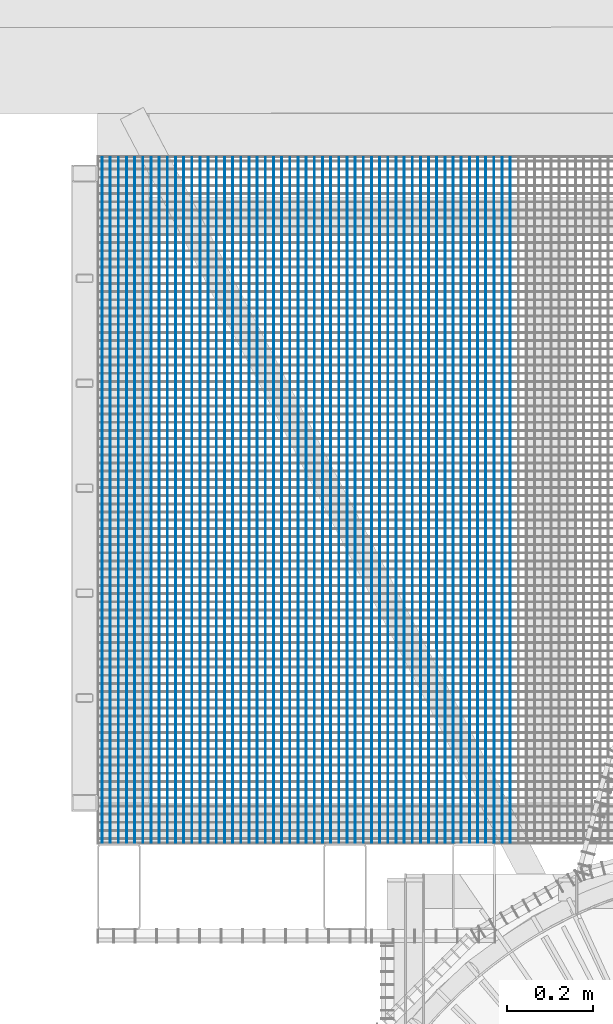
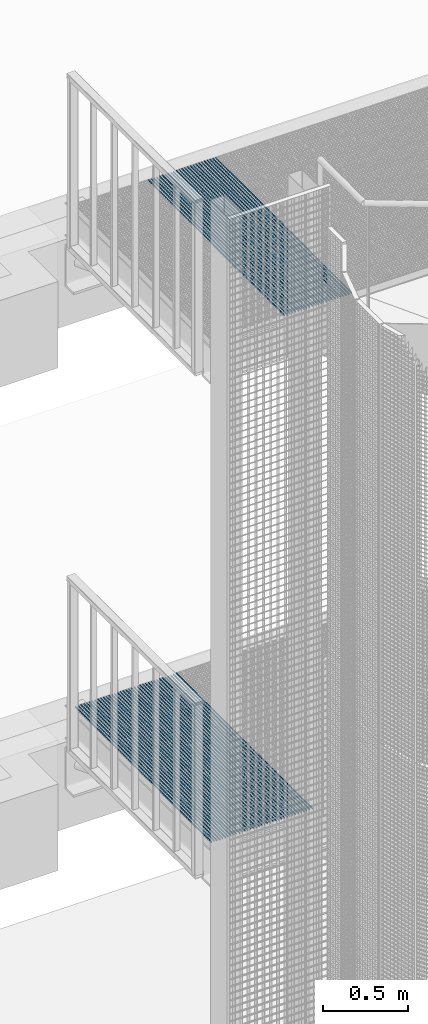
# One storey, part 78 of 1148: 62 beams, 2 elements without a shape of their own.
"""IFC2X3 building model written with IfcOpenShell, lengths in millimetres."""

from ifc_helpers import new_model, si_unit, frame, origin_with_axes, origin_2d_with_axis, place, context, subcontext, project, spatial, rectangle, extrude, material, type_object, element, aggregate, save


model = new_model("IFC2X3")

# Units and contexts
model_context = context("Model", 3, precision=1e-05, world=origin_with_axes())
body_context = subcontext(model_context, "Body", "Model", "MODEL_VIEW")
ifc_project = project(units=[si_unit("LENGTHUNIT", "METRE", prefix="MILLI"), si_unit("AREAUNIT", "SQUARE_METRE"), si_unit("VOLUMEUNIT", "CUBIC_METRE"), si_unit("MASSUNIT", "GRAM", prefix="KILO"), si_unit("TIMEUNIT", "SECOND"), si_unit("PLANEANGLEUNIT", "RADIAN"), si_unit("SOLIDANGLEUNIT", "STERADIAN"), si_unit("THERMODYNAMICTEMPERATUREUNIT", "DEGREE_CELSIUS"), si_unit("LUMINOUSINTENSITYUNIT", "LUMEN")], contexts=[model_context])

# Site, building, storey
site_placement = place(None, origin_with_axes())
site = spatial("IfcSite", under=ifc_project, at=site_placement, Name="Undefined", CompositionType="ELEMENT")
building_placement = place(site_placement, origin_with_axes())
building = spatial("IfcBuilding", under=site, at=building_placement, Name="Undefined", CompositionType="ELEMENT")
storey_placement = place(building_placement, origin_with_axes())
storey = spatial("IfcBuildingStorey", under=building, at=storey_placement, Name="Undefined", CompositionType="ELEMENT", Elevation=0.0)

# Assembly, beams
assembly_1_placement = place(storey_placement, origin_with_axes())
assembly_1 = element("IfcElementAssembly", 1, at=assembly_1_placement, inside=storey, Name="BORDURE", AssemblyPlace="NOTDEFINED", PredefinedType="NOTDEFINED")
ifc_material = material(Name="STEEL/S235JR")
beam_type = type_object("IfcBeamType", Name="PL2*10", PredefinedType="NOTDEFINED")
beam_1_placement = place(assembly_1_placement, frame((-1044.9245752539, 1101.99717552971, 17285.0), z_axis=(0.0, 0.0, 1.0), x_axis=(-4.50599999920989e-06, 0.999999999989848, 0.0)))
beam_1 = element("IfcBeam", 2, at=beam_1_placement, type_object=beam_type, material=ifc_material, Name="ENTRETOISE", context=body_context, shape_type="SweptSolid", body=[
    extrude(rectangle(XDim=2.0, YDim=10.0, at=origin_2d_with_axis()), frame((1596.0000000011, -1.35186458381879e-18, -7.27595761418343e-12), z_axis=(-1.0, 0.0, 0.0), x_axis=(0.0, -1.0, 0.0)), (0.0, 0.0, 1.0), 1596.0),
])
beam_2_placement = place(assembly_1_placement, frame((-1025.92457525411, 1101.99726904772, 17285.0), z_axis=(0.0, 0.0, 1.0), x_axis=(-4.50599999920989e-06, 0.999999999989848, 0.0)))
beam_2 = element("IfcBeam", 3, at=beam_2_placement, type_object=beam_type, material=ifc_material, Name="ENTRETOISE", context=body_context, shape_type="SweptSolid", body=[
    extrude(rectangle(XDim=2.0, YDim=10.0, at=origin_2d_with_axis()), frame((1596.0000000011, -1.35186458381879e-18, -7.27595761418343e-12), z_axis=(-1.0, 0.0, 0.0), x_axis=(0.0, -1.0, 0.0)), (0.0, 0.0, 1.0), 1596.0),
])
beam_3_placement = place(assembly_1_placement, frame((-1006.92457525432, 1101.99736256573, 17285.0), z_axis=(0.0, 0.0, 1.0), x_axis=(-4.50599999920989e-06, 0.999999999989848, 0.0)))
beam_3 = element("IfcBeam", 4, at=beam_3_placement, type_object=beam_type, material=ifc_material, Name="ENTRETOISE", context=body_context, shape_type="SweptSolid", body=[
    extrude(rectangle(XDim=2.0, YDim=10.0, at=origin_2d_with_axis()), frame((1596.0000000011, -1.35186458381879e-18, -7.27595761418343e-12), z_axis=(-1.0, 0.0, 0.0), x_axis=(0.0, -1.0, 0.0)), (0.0, 0.0, 1.0), 1596.0),
])
beam_4_placement = place(assembly_1_placement, frame((-987.924575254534, 1101.99745608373, 17285.0), z_axis=(0.0, 0.0, 1.0), x_axis=(-4.50599999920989e-06, 0.999999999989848, 0.0)))
beam_4 = element("IfcBeam", 5, at=beam_4_placement, type_object=beam_type, material=ifc_material, Name="ENTRETOISE", context=body_context, shape_type="SweptSolid", body=[
    extrude(rectangle(XDim=2.0, YDim=10.0, at=origin_2d_with_axis()), frame((1596.0000000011, -1.35186458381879e-18, -7.27595761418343e-12), z_axis=(-1.0, 0.0, 0.0), x_axis=(0.0, -1.0, 0.0)), (0.0, 0.0, 1.0), 1596.0),
])
beam_5_placement = place(assembly_1_placement, frame((-968.924575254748, 1101.99754960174, 17285.0), z_axis=(0.0, 0.0, 1.0), x_axis=(-4.50599999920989e-06, 0.999999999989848, 0.0)))
beam_5 = element("IfcBeam", 6, at=beam_5_placement, type_object=beam_type, material=ifc_material, Name="ENTRETOISE", context=body_context, shape_type="SweptSolid", body=[
    extrude(rectangle(XDim=2.0, YDim=10.0, at=origin_2d_with_axis()), frame((1596.0000000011, -1.35186458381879e-18, -7.27595761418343e-12), z_axis=(-1.0, 0.0, 0.0), x_axis=(0.0, -1.0, 0.0)), (0.0, 0.0, 1.0), 1596.0),
])
beam_6_placement = place(assembly_1_placement, frame((-949.924575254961, 1101.99764311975, 17285.0), z_axis=(0.0, 0.0, 1.0), x_axis=(-4.50599999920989e-06, 0.999999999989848, 0.0)))
beam_6 = element("IfcBeam", 7, at=beam_6_placement, type_object=beam_type, material=ifc_material, Name="ENTRETOISE", context=body_context, shape_type="SweptSolid", body=[
    extrude(rectangle(XDim=2.0, YDim=10.0, at=origin_2d_with_axis()), frame((1596.0000000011, -1.35186458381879e-18, -7.27595761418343e-12), z_axis=(-1.0, 0.0, 0.0), x_axis=(0.0, -1.0, 0.0)), (0.0, 0.0, 1.0), 1596.0),
])
beam_7_placement = place(assembly_1_placement, frame((-930.924575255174, 1101.99773663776, 17285.0), z_axis=(0.0, 0.0, 1.0), x_axis=(-4.50599999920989e-06, 0.999999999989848, 0.0)))
beam_7 = element("IfcBeam", 8, at=beam_7_placement, type_object=beam_type, material=ifc_material, Name="ENTRETOISE", context=body_context, shape_type="SweptSolid", body=[
    extrude(rectangle(XDim=2.0, YDim=10.0, at=origin_2d_with_axis()), frame((1596.0000000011, -1.35186458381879e-18, -7.27595761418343e-12), z_axis=(-1.0, 0.0, 0.0), x_axis=(0.0, -1.0, 0.0)), (0.0, 0.0, 1.0), 1596.0),
])
beam_8_placement = place(assembly_1_placement, frame((-911.924575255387, 1101.99783015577, 17285.0), z_axis=(0.0, 0.0, 1.0), x_axis=(-4.50599999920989e-06, 0.999999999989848, 0.0)))
beam_8 = element("IfcBeam", 9, at=beam_8_placement, type_object=beam_type, material=ifc_material, Name="ENTRETOISE", context=body_context, shape_type="SweptSolid", body=[
    extrude(rectangle(XDim=2.0, YDim=10.0, at=origin_2d_with_axis()), frame((1596.0000000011, -1.35186458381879e-18, -7.27595761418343e-12), z_axis=(-1.0, 0.0, 0.0), x_axis=(0.0, -1.0, 0.0)), (0.0, 0.0, 1.0), 1596.0),
])
beam_9_placement = place(assembly_1_placement, frame((-892.924575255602, 1101.99792367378, 17285.0), z_axis=(0.0, 0.0, 1.0), x_axis=(-4.50599999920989e-06, 0.999999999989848, 0.0)))
beam_9 = element("IfcBeam", 10, at=beam_9_placement, type_object=beam_type, material=ifc_material, Name="ENTRETOISE", context=body_context, shape_type="SweptSolid", body=[
    extrude(rectangle(XDim=2.0, YDim=10.0, at=origin_2d_with_axis()), frame((1596.0000000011, -1.35186458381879e-18, -7.27595761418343e-12), z_axis=(-1.0, 0.0, 0.0), x_axis=(0.0, -1.0, 0.0)), (0.0, 0.0, 1.0), 1596.0),
])
beam_10_placement = place(assembly_1_placement, frame((-873.924575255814, 1101.99801719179, 17285.0), z_axis=(0.0, 0.0, 1.0), x_axis=(-4.50599999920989e-06, 0.999999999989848, 0.0)))
beam_10 = element("IfcBeam", 11, at=beam_10_placement, type_object=beam_type, material=ifc_material, Name="ENTRETOISE", context=body_context, shape_type="SweptSolid", body=[
    extrude(rectangle(XDim=2.0, YDim=10.0, at=origin_2d_with_axis()), frame((1596.0000000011, -1.35186458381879e-18, -7.27595761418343e-12), z_axis=(-1.0, 0.0, 0.0), x_axis=(0.0, -1.0, 0.0)), (0.0, 0.0, 1.0), 1596.0),
])
beam_11_placement = place(assembly_1_placement, frame((-854.924575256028, 1101.9981107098, 17285.0), z_axis=(0.0, 0.0, 1.0), x_axis=(-4.50599999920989e-06, 0.999999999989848, 0.0)))
beam_11 = element("IfcBeam", 12, at=beam_11_placement, type_object=beam_type, material=ifc_material, Name="ENTRETOISE", context=body_context, shape_type="SweptSolid", body=[
    extrude(rectangle(XDim=2.0, YDim=10.0, at=origin_2d_with_axis()), frame((1596.0000000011, -1.35186458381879e-18, -7.27595761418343e-12), z_axis=(-1.0, 0.0, 0.0), x_axis=(0.0, -1.0, 0.0)), (0.0, 0.0, 1.0), 1596.0),
])
beam_12_placement = place(assembly_1_placement, frame((-835.92457525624, 1101.99820422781, 17285.0), z_axis=(0.0, 0.0, 1.0), x_axis=(-4.50599999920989e-06, 0.999999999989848, 0.0)))
beam_12 = element("IfcBeam", 13, at=beam_12_placement, type_object=beam_type, material=ifc_material, Name="ENTRETOISE", context=body_context, shape_type="SweptSolid", body=[
    extrude(rectangle(XDim=2.0, YDim=10.0, at=origin_2d_with_axis()), frame((1596.0000000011, -1.35186458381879e-18, -7.27595761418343e-12), z_axis=(-1.0, 0.0, 0.0), x_axis=(0.0, -1.0, 0.0)), (0.0, 0.0, 1.0), 1596.0),
])
beam_13_placement = place(assembly_1_placement, frame((-816.924575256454, 1101.99829774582, 17285.0), z_axis=(0.0, 0.0, 1.0), x_axis=(-4.50599999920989e-06, 0.999999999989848, 0.0)))
beam_13 = element("IfcBeam", 14, at=beam_13_placement, type_object=beam_type, material=ifc_material, Name="ENTRETOISE", context=body_context, shape_type="SweptSolid", body=[
    extrude(rectangle(XDim=2.0, YDim=10.0, at=origin_2d_with_axis()), frame((1596.0000000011, -1.35186458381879e-18, -7.27595761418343e-12), z_axis=(-1.0, 0.0, 0.0), x_axis=(0.0, -1.0, 0.0)), (0.0, 0.0, 1.0), 1596.0),
])
beam_14_placement = place(assembly_1_placement, frame((-797.924575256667, 1101.99839126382, 17285.0), z_axis=(0.0, 0.0, 1.0), x_axis=(-4.50599999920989e-06, 0.999999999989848, 0.0)))
beam_14 = element("IfcBeam", 15, at=beam_14_placement, type_object=beam_type, material=ifc_material, Name="ENTRETOISE", context=body_context, shape_type="SweptSolid", body=[
    extrude(rectangle(XDim=2.0, YDim=10.0, at=origin_2d_with_axis()), frame((1596.0000000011, -1.35186458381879e-18, -7.27595761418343e-12), z_axis=(-1.0, 0.0, 0.0), x_axis=(0.0, -1.0, 0.0)), (0.0, 0.0, 1.0), 1596.0),
])
beam_15_placement = place(assembly_1_placement, frame((-778.92457525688, 1101.99848478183, 17285.0), z_axis=(0.0, 0.0, 1.0), x_axis=(-4.50599999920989e-06, 0.999999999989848, 0.0)))
beam_15 = element("IfcBeam", 16, at=beam_15_placement, type_object=beam_type, material=ifc_material, Name="ENTRETOISE", context=body_context, shape_type="SweptSolid", body=[
    extrude(rectangle(XDim=2.0, YDim=10.0, at=origin_2d_with_axis()), frame((1596.0000000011, -1.35186458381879e-18, -7.27595761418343e-12), z_axis=(-1.0, 0.0, 0.0), x_axis=(0.0, -1.0, 0.0)), (0.0, 0.0, 1.0), 1596.0),
])
beam_16_placement = place(assembly_1_placement, frame((-759.924575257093, 1101.99857829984, 17285.0), z_axis=(0.0, 0.0, 1.0), x_axis=(-4.50599999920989e-06, 0.999999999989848, 0.0)))
beam_16 = element("IfcBeam", 17, at=beam_16_placement, type_object=beam_type, material=ifc_material, Name="ENTRETOISE", context=body_context, shape_type="SweptSolid", body=[
    extrude(rectangle(XDim=2.0, YDim=10.0, at=origin_2d_with_axis()), frame((1596.0000000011, -1.35186458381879e-18, -7.27595761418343e-12), z_axis=(-1.0, 0.0, 0.0), x_axis=(0.0, -1.0, 0.0)), (0.0, 0.0, 1.0), 1596.0),
])
beam_17_placement = place(assembly_1_placement, frame((-740.924575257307, 1101.99867181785, 17285.0), z_axis=(0.0, 0.0, 1.0), x_axis=(-4.50599999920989e-06, 0.999999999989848, 0.0)))
beam_17 = element("IfcBeam", 18, at=beam_17_placement, type_object=beam_type, material=ifc_material, Name="ENTRETOISE", context=body_context, shape_type="SweptSolid", body=[
    extrude(rectangle(XDim=2.0, YDim=10.0, at=origin_2d_with_axis()), frame((1596.0000000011, -1.35186458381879e-18, -7.27595761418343e-12), z_axis=(-1.0, 0.0, 0.0), x_axis=(0.0, -1.0, 0.0)), (0.0, 0.0, 1.0), 1596.0),
])
beam_18_placement = place(assembly_1_placement, frame((-721.92457525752, 1101.99876533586, 17285.0), z_axis=(0.0, 0.0, 1.0), x_axis=(-4.50599999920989e-06, 0.999999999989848, 0.0)))
beam_18 = element("IfcBeam", 19, at=beam_18_placement, type_object=beam_type, material=ifc_material, Name="ENTRETOISE", context=body_context, shape_type="SweptSolid", body=[
    extrude(rectangle(XDim=2.0, YDim=10.0, at=origin_2d_with_axis()), frame((1596.0000000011, -1.35186458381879e-18, -7.27595761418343e-12), z_axis=(-1.0, 0.0, 0.0), x_axis=(0.0, -1.0, 0.0)), (0.0, 0.0, 1.0), 1596.0),
])
beam_19_placement = place(assembly_1_placement, frame((-702.924575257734, 1101.99885885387, 17285.0), z_axis=(0.0, 0.0, 1.0), x_axis=(-4.50599999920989e-06, 0.999999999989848, 0.0)))
beam_19 = element("IfcBeam", 20, at=beam_19_placement, type_object=beam_type, material=ifc_material, Name="ENTRETOISE", context=body_context, shape_type="SweptSolid", body=[
    extrude(rectangle(XDim=2.0, YDim=10.0, at=origin_2d_with_axis()), frame((1596.0000000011, -1.35186458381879e-18, -7.27595761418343e-12), z_axis=(-1.0, 0.0, 0.0), x_axis=(0.0, -1.0, 0.0)), (0.0, 0.0, 1.0), 1596.0),
])
beam_20_placement = place(assembly_1_placement, frame((-683.924575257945, 1101.99895237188, 17285.0), z_axis=(0.0, 0.0, 1.0), x_axis=(-4.50599999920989e-06, 0.999999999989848, 0.0)))
beam_20 = element("IfcBeam", 21, at=beam_20_placement, type_object=beam_type, material=ifc_material, Name="ENTRETOISE", context=body_context, shape_type="SweptSolid", body=[
    extrude(rectangle(XDim=2.0, YDim=10.0, at=origin_2d_with_axis()), frame((1596.0000000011, -1.35186458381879e-18, -7.27595761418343e-12), z_axis=(-1.0, 0.0, 0.0), x_axis=(0.0, -1.0, 0.0)), (0.0, 0.0, 1.0), 1596.0),
])
beam_21_placement = place(assembly_1_placement, frame((-664.92457525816, 1101.99904588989, 17285.0), z_axis=(0.0, 0.0, 1.0), x_axis=(-4.50599999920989e-06, 0.999999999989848, 0.0)))
beam_21 = element("IfcBeam", 22, at=beam_21_placement, type_object=beam_type, material=ifc_material, Name="ENTRETOISE", context=body_context, shape_type="SweptSolid", body=[
    extrude(rectangle(XDim=2.0, YDim=10.0, at=origin_2d_with_axis()), frame((1596.0000000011, -1.35186458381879e-18, -7.27595761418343e-12), z_axis=(-1.0, 0.0, 0.0), x_axis=(0.0, -1.0, 0.0)), (0.0, 0.0, 1.0), 1596.0),
])
beam_22_placement = place(assembly_1_placement, frame((-645.924575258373, 1101.9991394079, 17285.0), z_axis=(0.0, 0.0, 1.0), x_axis=(-4.50599999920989e-06, 0.999999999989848, 0.0)))
beam_22 = element("IfcBeam", 23, at=beam_22_placement, type_object=beam_type, material=ifc_material, Name="ENTRETOISE", context=body_context, shape_type="SweptSolid", body=[
    extrude(rectangle(XDim=2.0, YDim=10.0, at=origin_2d_with_axis()), frame((1596.0000000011, -1.35186458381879e-18, -7.27595761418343e-12), z_axis=(-1.0, 0.0, 0.0), x_axis=(0.0, -1.0, 0.0)), (0.0, 0.0, 1.0), 1596.0),
])
beam_23_placement = place(assembly_1_placement, frame((-626.924575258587, 1101.99923292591, 17285.0), z_axis=(0.0, 0.0, 1.0), x_axis=(-4.50599999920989e-06, 0.999999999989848, 0.0)))
beam_23 = element("IfcBeam", 24, at=beam_23_placement, type_object=beam_type, material=ifc_material, Name="ENTRETOISE", context=body_context, shape_type="SweptSolid", body=[
    extrude(rectangle(XDim=2.0, YDim=10.0, at=origin_2d_with_axis()), frame((1596.0000000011, -1.35186458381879e-18, -7.27595761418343e-12), z_axis=(-1.0, 0.0, 0.0), x_axis=(0.0, -1.0, 0.0)), (0.0, 0.0, 1.0), 1596.0),
])
beam_24_placement = place(assembly_1_placement, frame((-607.924575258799, 1101.99932644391, 17285.0), z_axis=(0.0, 0.0, 1.0), x_axis=(-4.50599999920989e-06, 0.999999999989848, 0.0)))
beam_24 = element("IfcBeam", 25, at=beam_24_placement, type_object=beam_type, material=ifc_material, Name="ENTRETOISE", context=body_context, shape_type="SweptSolid", body=[
    extrude(rectangle(XDim=2.0, YDim=10.0, at=origin_2d_with_axis()), frame((1596.0000000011, -1.35186458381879e-18, -7.27595761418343e-12), z_axis=(-1.0, 0.0, 0.0), x_axis=(0.0, -1.0, 0.0)), (0.0, 0.0, 1.0), 1596.0),
])
beam_25_placement = place(assembly_1_placement, frame((-588.924575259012, 1101.99941996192, 17285.0), z_axis=(0.0, 0.0, 1.0), x_axis=(-4.50599999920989e-06, 0.999999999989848, 0.0)))
beam_25 = element("IfcBeam", 26, at=beam_25_placement, type_object=beam_type, material=ifc_material, Name="ENTRETOISE", context=body_context, shape_type="SweptSolid", body=[
    extrude(rectangle(XDim=2.0, YDim=10.0, at=origin_2d_with_axis()), frame((1596.0000000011, -1.35186458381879e-18, -7.27595761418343e-12), z_axis=(-1.0, 0.0, 0.0), x_axis=(0.0, -1.0, 0.0)), (0.0, 0.0, 1.0), 1596.0),
])
aggregate(assembly_1, [beam_1, beam_2, beam_3, beam_4, beam_5, beam_6, beam_7, beam_8, beam_9, beam_10, beam_11, beam_12, beam_13, beam_14, beam_15, beam_16, beam_17, beam_18, beam_19, beam_20, beam_21, beam_22, beam_23, beam_24, beam_25])

assembly_2_placement = place(storey_placement, origin_with_axes())
assembly_2 = element("IfcElementAssembly", 27, at=assembly_2_placement, inside=storey, Name="BORDURE", AssemblyPlace="NOTDEFINED", PredefinedType="NOTDEFINED")
beam_26_placement = place(assembly_2_placement, frame((-1538.92457524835, 1101.99474406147, 13685.0), z_axis=(0.0, 0.0, 1.0), x_axis=(-4.50599999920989e-06, 0.999999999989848, 0.0)))
beam_26 = element("IfcBeam", 28, at=beam_26_placement, type_object=beam_type, material=ifc_material, Name="ENTRETOISE", context=body_context, shape_type="SweptSolid", body=[
    extrude(rectangle(XDim=2.0, YDim=10.0, at=origin_2d_with_axis()), frame((1596.0000000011, -1.35186458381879e-18, -7.27595761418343e-12), z_axis=(-1.0, 0.0, 0.0), x_axis=(0.0, -1.0, 0.0)), (0.0, 0.0, 1.0), 1596.0),
])
beam_27_placement = place(assembly_2_placement, frame((-1519.92457524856, 1101.99483757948, 13685.0), z_axis=(0.0, 0.0, 1.0), x_axis=(-4.50599999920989e-06, 0.999999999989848, 0.0)))
beam_27 = element("IfcBeam", 29, at=beam_27_placement, type_object=beam_type, material=ifc_material, Name="ENTRETOISE", context=body_context, shape_type="SweptSolid", body=[
    extrude(rectangle(XDim=2.0, YDim=10.0, at=origin_2d_with_axis()), frame((1596.0000000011, -1.35186458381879e-18, -7.27595761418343e-12), z_axis=(-1.0, 0.0, 0.0), x_axis=(0.0, -1.0, 0.0)), (0.0, 0.0, 1.0), 1596.0),
])
beam_28_placement = place(assembly_2_placement, frame((-1500.92457524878, 1101.99493109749, 13685.0), z_axis=(0.0, 0.0, 1.0), x_axis=(-4.50599999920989e-06, 0.999999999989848, 0.0)))
beam_28 = element("IfcBeam", 30, at=beam_28_placement, type_object=beam_type, material=ifc_material, Name="ENTRETOISE", context=body_context, shape_type="SweptSolid", body=[
    extrude(rectangle(XDim=2.0, YDim=10.0, at=origin_2d_with_axis()), frame((1596.0000000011, -1.35186458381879e-18, -7.27595761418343e-12), z_axis=(-1.0, 0.0, 0.0), x_axis=(0.0, -1.0, 0.0)), (0.0, 0.0, 1.0), 1596.0),
])
beam_29_placement = place(assembly_2_placement, frame((-1481.92457524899, 1101.9950246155, 13685.0), z_axis=(0.0, 0.0, 1.0), x_axis=(-4.50599999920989e-06, 0.999999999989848, 0.0)))
beam_29 = element("IfcBeam", 31, at=beam_29_placement, type_object=beam_type, material=ifc_material, Name="ENTRETOISE", context=body_context, shape_type="SweptSolid", body=[
    extrude(rectangle(XDim=2.0, YDim=10.0, at=origin_2d_with_axis()), frame((1596.0000000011, -1.35186458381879e-18, -7.27595761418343e-12), z_axis=(-1.0, 0.0, 0.0), x_axis=(0.0, -1.0, 0.0)), (0.0, 0.0, 1.0), 1596.0),
])
beam_30_placement = place(assembly_2_placement, frame((-1462.92457524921, 1101.99511813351, 13685.0), z_axis=(0.0, 0.0, 1.0), x_axis=(-4.50599999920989e-06, 0.999999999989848, 0.0)))
beam_30 = element("IfcBeam", 32, at=beam_30_placement, type_object=beam_type, material=ifc_material, Name="ENTRETOISE", context=body_context, shape_type="SweptSolid", body=[
    extrude(rectangle(XDim=2.0, YDim=10.0, at=origin_2d_with_axis()), frame((1596.0000000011, -1.35186458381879e-18, -7.27595761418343e-12), z_axis=(-1.0, 0.0, 0.0), x_axis=(0.0, -1.0, 0.0)), (0.0, 0.0, 1.0), 1596.0),
])
beam_31_placement = place(assembly_2_placement, frame((-1443.92457524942, 1101.99521165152, 13685.0), z_axis=(0.0, 0.0, 1.0), x_axis=(-4.50599999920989e-06, 0.999999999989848, 0.0)))
beam_31 = element("IfcBeam", 33, at=beam_31_placement, type_object=beam_type, material=ifc_material, Name="ENTRETOISE", context=body_context, shape_type="SweptSolid", body=[
    extrude(rectangle(XDim=2.0, YDim=10.0, at=origin_2d_with_axis()), frame((1596.0000000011, -1.35186458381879e-18, -7.27595761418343e-12), z_axis=(-1.0, 0.0, 0.0), x_axis=(0.0, -1.0, 0.0)), (0.0, 0.0, 1.0), 1596.0),
])
beam_32_placement = place(assembly_2_placement, frame((-1424.92457524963, 1101.99530516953, 13685.0), z_axis=(0.0, 0.0, 1.0), x_axis=(-4.50599999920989e-06, 0.999999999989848, 0.0)))
beam_32 = element("IfcBeam", 34, at=beam_32_placement, type_object=beam_type, material=ifc_material, Name="ENTRETOISE", context=body_context, shape_type="SweptSolid", body=[
    extrude(rectangle(XDim=2.0, YDim=10.0, at=origin_2d_with_axis()), frame((1596.0000000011, -1.35186458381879e-18, -7.27595761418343e-12), z_axis=(-1.0, 0.0, 0.0), x_axis=(0.0, -1.0, 0.0)), (0.0, 0.0, 1.0), 1596.0),
])
beam_33_placement = place(assembly_2_placement, frame((-1405.92457524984, 1101.99539868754, 13685.0), z_axis=(0.0, 0.0, 1.0), x_axis=(-4.50599999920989e-06, 0.999999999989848, 0.0)))
beam_33 = element("IfcBeam", 35, at=beam_33_placement, type_object=beam_type, material=ifc_material, Name="ENTRETOISE", context=body_context, shape_type="SweptSolid", body=[
    extrude(rectangle(XDim=2.0, YDim=10.0, at=origin_2d_with_axis()), frame((1596.0000000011, -1.35186458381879e-18, -7.27595761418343e-12), z_axis=(-1.0, 0.0, 0.0), x_axis=(0.0, -1.0, 0.0)), (0.0, 0.0, 1.0), 1596.0),
])
beam_34_placement = place(assembly_2_placement, frame((-1386.92457525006, 1101.99549220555, 13685.0), z_axis=(0.0, 0.0, 1.0), x_axis=(-4.50599999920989e-06, 0.999999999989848, 0.0)))
beam_34 = element("IfcBeam", 36, at=beam_34_placement, type_object=beam_type, material=ifc_material, Name="ENTRETOISE", context=body_context, shape_type="SweptSolid", body=[
    extrude(rectangle(XDim=2.0, YDim=10.0, at=origin_2d_with_axis()), frame((1596.0000000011, -1.35186458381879e-18, -7.27595761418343e-12), z_axis=(-1.0, 0.0, 0.0), x_axis=(0.0, -1.0, 0.0)), (0.0, 0.0, 1.0), 1596.0),
])
beam_35_placement = place(assembly_2_placement, frame((-1367.92457525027, 1101.99558572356, 13685.0), z_axis=(0.0, 0.0, 1.0), x_axis=(-4.50599999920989e-06, 0.999999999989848, 0.0)))
beam_35 = element("IfcBeam", 37, at=beam_35_placement, type_object=beam_type, material=ifc_material, Name="ENTRETOISE", context=body_context, shape_type="SweptSolid", body=[
    extrude(rectangle(XDim=2.0, YDim=10.0, at=origin_2d_with_axis()), frame((1596.0000000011, -1.35186458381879e-18, -7.27595761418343e-12), z_axis=(-1.0, 0.0, 0.0), x_axis=(0.0, -1.0, 0.0)), (0.0, 0.0, 1.0), 1596.0),
])
beam_36_placement = place(assembly_2_placement, frame((-1348.92457525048, 1101.99567924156, 13685.0), z_axis=(0.0, 0.0, 1.0), x_axis=(-4.50599999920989e-06, 0.999999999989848, 0.0)))
beam_36 = element("IfcBeam", 38, at=beam_36_placement, type_object=beam_type, material=ifc_material, Name="ENTRETOISE", context=body_context, shape_type="SweptSolid", body=[
    extrude(rectangle(XDim=2.0, YDim=10.0, at=origin_2d_with_axis()), frame((1596.0000000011, -1.35186458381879e-18, -7.27595761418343e-12), z_axis=(-1.0, 0.0, 0.0), x_axis=(0.0, -1.0, 0.0)), (0.0, 0.0, 1.0), 1596.0),
])
beam_37_placement = place(assembly_2_placement, frame((-1329.9245752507, 1101.99577275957, 13685.0), z_axis=(0.0, 0.0, 1.0), x_axis=(-4.50599999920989e-06, 0.999999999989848, 0.0)))
beam_37 = element("IfcBeam", 39, at=beam_37_placement, type_object=beam_type, material=ifc_material, Name="ENTRETOISE", context=body_context, shape_type="SweptSolid", body=[
    extrude(rectangle(XDim=2.0, YDim=10.0, at=origin_2d_with_axis()), frame((1596.0000000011, -1.35186458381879e-18, -7.27595761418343e-12), z_axis=(-1.0, 0.0, 0.0), x_axis=(0.0, -1.0, 0.0)), (0.0, 0.0, 1.0), 1596.0),
])
beam_38_placement = place(assembly_2_placement, frame((-1310.92457525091, 1101.99586627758, 13685.0), z_axis=(0.0, 0.0, 1.0), x_axis=(-4.50599999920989e-06, 0.999999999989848, 0.0)))
beam_38 = element("IfcBeam", 40, at=beam_38_placement, type_object=beam_type, material=ifc_material, Name="ENTRETOISE", context=body_context, shape_type="SweptSolid", body=[
    extrude(rectangle(XDim=2.0, YDim=10.0, at=origin_2d_with_axis()), frame((1596.0000000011, -1.35186458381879e-18, -7.27595761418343e-12), z_axis=(-1.0, 0.0, 0.0), x_axis=(0.0, -1.0, 0.0)), (0.0, 0.0, 1.0), 1596.0),
])
beam_39_placement = place(assembly_2_placement, frame((-1291.92457525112, 1101.99595979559, 13685.0), z_axis=(0.0, 0.0, 1.0), x_axis=(-4.50599999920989e-06, 0.999999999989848, 0.0)))
beam_39 = element("IfcBeam", 41, at=beam_39_placement, type_object=beam_type, material=ifc_material, Name="ENTRETOISE", context=body_context, shape_type="SweptSolid", body=[
    extrude(rectangle(XDim=2.0, YDim=10.0, at=origin_2d_with_axis()), frame((1596.0000000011, -1.35186458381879e-18, -7.27595761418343e-12), z_axis=(-1.0, 0.0, 0.0), x_axis=(0.0, -1.0, 0.0)), (0.0, 0.0, 1.0), 1596.0),
])
beam_40_placement = place(assembly_2_placement, frame((-1272.92457525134, 1101.9960533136, 13685.0), z_axis=(0.0, 0.0, 1.0), x_axis=(-4.50599999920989e-06, 0.999999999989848, 0.0)))
beam_40 = element("IfcBeam", 42, at=beam_40_placement, type_object=beam_type, material=ifc_material, Name="ENTRETOISE", context=body_context, shape_type="SweptSolid", body=[
    extrude(rectangle(XDim=2.0, YDim=10.0, at=origin_2d_with_axis()), frame((1596.0000000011, -1.35186458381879e-18, -7.27595761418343e-12), z_axis=(-1.0, 0.0, 0.0), x_axis=(0.0, -1.0, 0.0)), (0.0, 0.0, 1.0), 1596.0),
])
beam_41_placement = place(assembly_2_placement, frame((-1253.92457525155, 1101.99614683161, 13685.0), z_axis=(0.0, 0.0, 1.0), x_axis=(-4.50599999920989e-06, 0.999999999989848, 0.0)))
beam_41 = element("IfcBeam", 43, at=beam_41_placement, type_object=beam_type, material=ifc_material, Name="ENTRETOISE", context=body_context, shape_type="SweptSolid", body=[
    extrude(rectangle(XDim=2.0, YDim=10.0, at=origin_2d_with_axis()), frame((1596.0000000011, -1.35186458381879e-18, -7.27595761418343e-12), z_axis=(-1.0, 0.0, 0.0), x_axis=(0.0, -1.0, 0.0)), (0.0, 0.0, 1.0), 1596.0),
])
beam_42_placement = place(assembly_2_placement, frame((-1234.92457525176, 1101.99624034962, 13685.0), z_axis=(0.0, 0.0, 1.0), x_axis=(-4.50599999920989e-06, 0.999999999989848, 0.0)))
beam_42 = element("IfcBeam", 44, at=beam_42_placement, type_object=beam_type, material=ifc_material, Name="ENTRETOISE", context=body_context, shape_type="SweptSolid", body=[
    extrude(rectangle(XDim=2.0, YDim=10.0, at=origin_2d_with_axis()), frame((1596.0000000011, -1.35186458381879e-18, -7.27595761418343e-12), z_axis=(-1.0, 0.0, 0.0), x_axis=(0.0, -1.0, 0.0)), (0.0, 0.0, 1.0), 1596.0),
])
beam_43_placement = place(assembly_2_placement, frame((-1215.92457525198, 1101.99633386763, 13685.0), z_axis=(0.0, 0.0, 1.0), x_axis=(-4.50599999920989e-06, 0.999999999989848, 0.0)))
beam_43 = element("IfcBeam", 45, at=beam_43_placement, type_object=beam_type, material=ifc_material, Name="ENTRETOISE", context=body_context, shape_type="SweptSolid", body=[
    extrude(rectangle(XDim=2.0, YDim=10.0, at=origin_2d_with_axis()), frame((1596.0000000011, -1.35186458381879e-18, -7.27595761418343e-12), z_axis=(-1.0, 0.0, 0.0), x_axis=(0.0, -1.0, 0.0)), (0.0, 0.0, 1.0), 1596.0),
])
beam_44_placement = place(assembly_2_placement, frame((-1196.92457525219, 1101.99642738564, 13685.0), z_axis=(0.0, 0.0, 1.0), x_axis=(-4.50599999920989e-06, 0.999999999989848, 0.0)))
beam_44 = element("IfcBeam", 46, at=beam_44_placement, type_object=beam_type, material=ifc_material, Name="ENTRETOISE", context=body_context, shape_type="SweptSolid", body=[
    extrude(rectangle(XDim=2.0, YDim=10.0, at=origin_2d_with_axis()), frame((1596.0000000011, -1.35186458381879e-18, -7.27595761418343e-12), z_axis=(-1.0, 0.0, 0.0), x_axis=(0.0, -1.0, 0.0)), (0.0, 0.0, 1.0), 1596.0),
])
beam_45_placement = place(assembly_2_placement, frame((-1177.9245752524, 1101.99652090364, 13685.0), z_axis=(0.0, 0.0, 1.0), x_axis=(-4.50599999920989e-06, 0.999999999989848, 0.0)))
beam_45 = element("IfcBeam", 47, at=beam_45_placement, type_object=beam_type, material=ifc_material, Name="ENTRETOISE", context=body_context, shape_type="SweptSolid", body=[
    extrude(rectangle(XDim=2.0, YDim=10.0, at=origin_2d_with_axis()), frame((1596.0000000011, -1.35186458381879e-18, -7.27595761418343e-12), z_axis=(-1.0, 0.0, 0.0), x_axis=(0.0, -1.0, 0.0)), (0.0, 0.0, 1.0), 1596.0),
])
beam_46_placement = place(assembly_2_placement, frame((-1158.92457525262, 1101.99661442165, 13685.0), z_axis=(0.0, 0.0, 1.0), x_axis=(-4.50599999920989e-06, 0.999999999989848, 0.0)))
beam_46 = element("IfcBeam", 48, at=beam_46_placement, type_object=beam_type, material=ifc_material, Name="ENTRETOISE", context=body_context, shape_type="SweptSolid", body=[
    extrude(rectangle(XDim=2.0, YDim=10.0, at=origin_2d_with_axis()), frame((1596.0000000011, -1.35186458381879e-18, -7.27595761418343e-12), z_axis=(-1.0, 0.0, 0.0), x_axis=(0.0, -1.0, 0.0)), (0.0, 0.0, 1.0), 1596.0),
])
beam_47_placement = place(assembly_2_placement, frame((-1139.92457525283, 1101.99670793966, 13685.0), z_axis=(0.0, 0.0, 1.0), x_axis=(-4.50599999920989e-06, 0.999999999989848, 0.0)))
beam_47 = element("IfcBeam", 49, at=beam_47_placement, type_object=beam_type, material=ifc_material, Name="ENTRETOISE", context=body_context, shape_type="SweptSolid", body=[
    extrude(rectangle(XDim=2.0, YDim=10.0, at=origin_2d_with_axis()), frame((1596.0000000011, -1.35186458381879e-18, -7.27595761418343e-12), z_axis=(-1.0, 0.0, 0.0), x_axis=(0.0, -1.0, 0.0)), (0.0, 0.0, 1.0), 1596.0),
])
beam_48_placement = place(assembly_2_placement, frame((-1120.92457525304, 1101.99680145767, 13685.0), z_axis=(0.0, 0.0, 1.0), x_axis=(-4.50599999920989e-06, 0.999999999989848, 0.0)))
beam_48 = element("IfcBeam", 50, at=beam_48_placement, type_object=beam_type, material=ifc_material, Name="ENTRETOISE", context=body_context, shape_type="SweptSolid", body=[
    extrude(rectangle(XDim=2.0, YDim=10.0, at=origin_2d_with_axis()), frame((1596.0000000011, -1.35186458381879e-18, -7.27595761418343e-12), z_axis=(-1.0, 0.0, 0.0), x_axis=(0.0, -1.0, 0.0)), (0.0, 0.0, 1.0), 1596.0),
])
beam_49_placement = place(assembly_2_placement, frame((-1101.92457525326, 1101.99689497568, 13685.0), z_axis=(0.0, 0.0, 1.0), x_axis=(-4.50599999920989e-06, 0.999999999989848, 0.0)))
beam_49 = element("IfcBeam", 51, at=beam_49_placement, type_object=beam_type, material=ifc_material, Name="ENTRETOISE", context=body_context, shape_type="SweptSolid", body=[
    extrude(rectangle(XDim=2.0, YDim=10.0, at=origin_2d_with_axis()), frame((1596.0000000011, -1.35186458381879e-18, -7.27595761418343e-12), z_axis=(-1.0, 0.0, 0.0), x_axis=(0.0, -1.0, 0.0)), (0.0, 0.0, 1.0), 1596.0),
])
beam_50_placement = place(assembly_2_placement, frame((-1082.92457525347, 1101.99698849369, 13685.0), z_axis=(0.0, 0.0, 1.0), x_axis=(-4.50599999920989e-06, 0.999999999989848, 0.0)))
beam_50 = element("IfcBeam", 52, at=beam_50_placement, type_object=beam_type, material=ifc_material, Name="ENTRETOISE", context=body_context, shape_type="SweptSolid", body=[
    extrude(rectangle(XDim=2.0, YDim=10.0, at=origin_2d_with_axis()), frame((1596.0000000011, -1.35186458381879e-18, -7.27595761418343e-12), z_axis=(-1.0, 0.0, 0.0), x_axis=(0.0, -1.0, 0.0)), (0.0, 0.0, 1.0), 1596.0),
])
beam_51_placement = place(assembly_2_placement, frame((-1063.92457525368, 1101.9970820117, 13685.0), z_axis=(0.0, 0.0, 1.0), x_axis=(-4.50599999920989e-06, 0.999999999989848, 0.0)))
beam_51 = element("IfcBeam", 53, at=beam_51_placement, type_object=beam_type, material=ifc_material, Name="ENTRETOISE", context=body_context, shape_type="SweptSolid", body=[
    extrude(rectangle(XDim=2.0, YDim=10.0, at=origin_2d_with_axis()), frame((1596.0000000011, -1.35186458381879e-18, -7.27595761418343e-12), z_axis=(-1.0, 0.0, 0.0), x_axis=(0.0, -1.0, 0.0)), (0.0, 0.0, 1.0), 1596.0),
])
beam_52_placement = place(assembly_2_placement, frame((-1044.9245752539, 1101.99717552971, 13685.0), z_axis=(0.0, 0.0, 1.0), x_axis=(-4.50599999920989e-06, 0.999999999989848, 0.0)))
beam_52 = element("IfcBeam", 54, at=beam_52_placement, type_object=beam_type, material=ifc_material, Name="ENTRETOISE", context=body_context, shape_type="SweptSolid", body=[
    extrude(rectangle(XDim=2.0, YDim=10.0, at=origin_2d_with_axis()), frame((1596.0000000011, -1.35186458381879e-18, -7.27595761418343e-12), z_axis=(-1.0, 0.0, 0.0), x_axis=(0.0, -1.0, 0.0)), (0.0, 0.0, 1.0), 1596.0),
])
beam_53_placement = place(assembly_2_placement, frame((-1025.92457525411, 1101.99726904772, 13685.0), z_axis=(0.0, 0.0, 1.0), x_axis=(-4.50599999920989e-06, 0.999999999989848, 0.0)))
beam_53 = element("IfcBeam", 55, at=beam_53_placement, type_object=beam_type, material=ifc_material, Name="ENTRETOISE", context=body_context, shape_type="SweptSolid", body=[
    extrude(rectangle(XDim=2.0, YDim=10.0, at=origin_2d_with_axis()), frame((1596.0000000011, -1.35186458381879e-18, -7.27595761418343e-12), z_axis=(-1.0, 0.0, 0.0), x_axis=(0.0, -1.0, 0.0)), (0.0, 0.0, 1.0), 1596.0),
])
beam_54_placement = place(assembly_2_placement, frame((-1006.92457525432, 1101.99736256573, 13685.0), z_axis=(0.0, 0.0, 1.0), x_axis=(-4.50599999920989e-06, 0.999999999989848, 0.0)))
beam_54 = element("IfcBeam", 56, at=beam_54_placement, type_object=beam_type, material=ifc_material, Name="ENTRETOISE", context=body_context, shape_type="SweptSolid", body=[
    extrude(rectangle(XDim=2.0, YDim=10.0, at=origin_2d_with_axis()), frame((1596.0000000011, -1.35186458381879e-18, -7.27595761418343e-12), z_axis=(-1.0, 0.0, 0.0), x_axis=(0.0, -1.0, 0.0)), (0.0, 0.0, 1.0), 1596.0),
])
beam_55_placement = place(assembly_2_placement, frame((-987.924575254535, 1101.99745608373, 13685.0), z_axis=(0.0, 0.0, 1.0), x_axis=(-4.50599999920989e-06, 0.999999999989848, 0.0)))
beam_55 = element("IfcBeam", 57, at=beam_55_placement, type_object=beam_type, material=ifc_material, Name="ENTRETOISE", context=body_context, shape_type="SweptSolid", body=[
    extrude(rectangle(XDim=2.0, YDim=10.0, at=origin_2d_with_axis()), frame((1596.0000000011, -1.35186458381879e-18, -7.27595761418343e-12), z_axis=(-1.0, 0.0, 0.0), x_axis=(0.0, -1.0, 0.0)), (0.0, 0.0, 1.0), 1596.0),
])
beam_56_placement = place(assembly_2_placement, frame((-968.924575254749, 1101.99754960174, 13685.0), z_axis=(0.0, 0.0, 1.0), x_axis=(-4.50599999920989e-06, 0.999999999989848, 0.0)))
beam_56 = element("IfcBeam", 58, at=beam_56_placement, type_object=beam_type, material=ifc_material, Name="ENTRETOISE", context=body_context, shape_type="SweptSolid", body=[
    extrude(rectangle(XDim=2.0, YDim=10.0, at=origin_2d_with_axis()), frame((1596.0000000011, -1.35186458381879e-18, -7.27595761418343e-12), z_axis=(-1.0, 0.0, 0.0), x_axis=(0.0, -1.0, 0.0)), (0.0, 0.0, 1.0), 1596.0),
])
beam_57_placement = place(assembly_2_placement, frame((-949.924575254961, 1101.99764311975, 13685.0), z_axis=(0.0, 0.0, 1.0), x_axis=(-4.50599999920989e-06, 0.999999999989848, 0.0)))
beam_57 = element("IfcBeam", 59, at=beam_57_placement, type_object=beam_type, material=ifc_material, Name="ENTRETOISE", context=body_context, shape_type="SweptSolid", body=[
    extrude(rectangle(XDim=2.0, YDim=10.0, at=origin_2d_with_axis()), frame((1596.0000000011, -1.35186458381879e-18, -7.27595761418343e-12), z_axis=(-1.0, 0.0, 0.0), x_axis=(0.0, -1.0, 0.0)), (0.0, 0.0, 1.0), 1596.0),
])
beam_58_placement = place(assembly_2_placement, frame((-930.924575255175, 1101.99773663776, 13685.0), z_axis=(0.0, 0.0, 1.0), x_axis=(-4.50599999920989e-06, 0.999999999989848, 0.0)))
beam_58 = element("IfcBeam", 60, at=beam_58_placement, type_object=beam_type, material=ifc_material, Name="ENTRETOISE", context=body_context, shape_type="SweptSolid", body=[
    extrude(rectangle(XDim=2.0, YDim=10.0, at=origin_2d_with_axis()), frame((1596.0000000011, -1.35186458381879e-18, -7.27595761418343e-12), z_axis=(-1.0, 0.0, 0.0), x_axis=(0.0, -1.0, 0.0)), (0.0, 0.0, 1.0), 1596.0),
])
beam_59_placement = place(assembly_2_placement, frame((-911.924575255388, 1101.99783015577, 13685.0), z_axis=(0.0, 0.0, 1.0), x_axis=(-4.50599999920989e-06, 0.999999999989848, 0.0)))
beam_59 = element("IfcBeam", 61, at=beam_59_placement, type_object=beam_type, material=ifc_material, Name="ENTRETOISE", context=body_context, shape_type="SweptSolid", body=[
    extrude(rectangle(XDim=2.0, YDim=10.0, at=origin_2d_with_axis()), frame((1596.0000000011, -1.35186458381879e-18, -7.27595761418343e-12), z_axis=(-1.0, 0.0, 0.0), x_axis=(0.0, -1.0, 0.0)), (0.0, 0.0, 1.0), 1596.0),
])
beam_60_placement = place(assembly_2_placement, frame((-892.924575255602, 1101.99792367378, 13685.0), z_axis=(0.0, 0.0, 1.0), x_axis=(-4.50599999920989e-06, 0.999999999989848, 0.0)))
beam_60 = element("IfcBeam", 62, at=beam_60_placement, type_object=beam_type, material=ifc_material, Name="ENTRETOISE", context=body_context, shape_type="SweptSolid", body=[
    extrude(rectangle(XDim=2.0, YDim=10.0, at=origin_2d_with_axis()), frame((1596.0000000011, -1.35186458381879e-18, -7.27595761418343e-12), z_axis=(-1.0, 0.0, 0.0), x_axis=(0.0, -1.0, 0.0)), (0.0, 0.0, 1.0), 1596.0),
])
beam_61_placement = place(assembly_2_placement, frame((-873.924575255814, 1101.99801719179, 13685.0), z_axis=(0.0, 0.0, 1.0), x_axis=(-4.50599999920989e-06, 0.999999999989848, 0.0)))
beam_61 = element("IfcBeam", 63, at=beam_61_placement, type_object=beam_type, material=ifc_material, Name="ENTRETOISE", context=body_context, shape_type="SweptSolid", body=[
    extrude(rectangle(XDim=2.0, YDim=10.0, at=origin_2d_with_axis()), frame((1596.0000000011, -1.35186458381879e-18, -7.27595761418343e-12), z_axis=(-1.0, 0.0, 0.0), x_axis=(0.0, -1.0, 0.0)), (0.0, 0.0, 1.0), 1596.0),
])
beam_62_placement = place(assembly_2_placement, frame((-854.924575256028, 1101.9981107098, 13685.0), z_axis=(0.0, 0.0, 1.0), x_axis=(-4.50599999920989e-06, 0.999999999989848, 0.0)))
beam_62 = element("IfcBeam", 64, at=beam_62_placement, type_object=beam_type, material=ifc_material, Name="ENTRETOISE", context=body_context, shape_type="SweptSolid", body=[
    extrude(rectangle(XDim=2.0, YDim=10.0, at=origin_2d_with_axis()), frame((1596.0000000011, -1.35186458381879e-18, -7.27595761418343e-12), z_axis=(-1.0, 0.0, 0.0), x_axis=(0.0, -1.0, 0.0)), (0.0, 0.0, 1.0), 1596.0),
])
aggregate(assembly_2, [beam_26, beam_27, beam_28, beam_29, beam_30, beam_31, beam_32, beam_33, beam_34, beam_35, beam_36, beam_37, beam_38, beam_39, beam_40, beam_41, beam_42, beam_43, beam_44, beam_45, beam_46, beam_47, beam_48, beam_49, beam_50, beam_51, beam_52, beam_53, beam_54, beam_55, beam_56, beam_57, beam_58, beam_59, beam_60, beam_61, beam_62])

save(model, "model.ifc")
